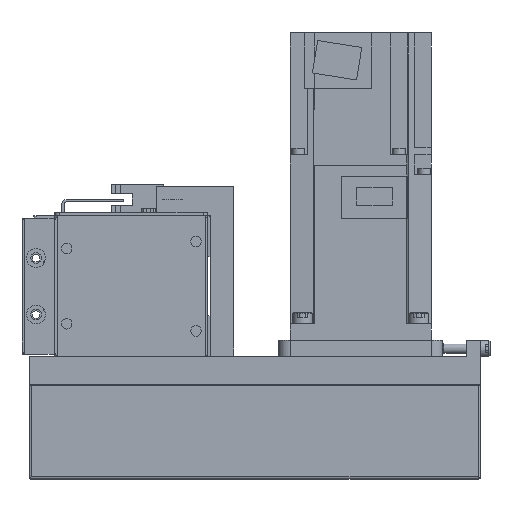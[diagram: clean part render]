
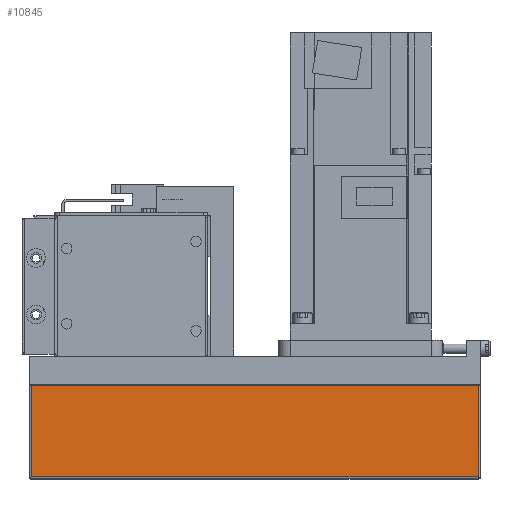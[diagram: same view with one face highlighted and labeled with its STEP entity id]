
A CAD part, left-side view. The second image highlights one B-rep face of the part: STEP entity #10845.
In plain terms, the highlighted planar face has unit normal (-1, 0, 0) as drawn and (1, 0, 0) by its records, which use the part's own axes.
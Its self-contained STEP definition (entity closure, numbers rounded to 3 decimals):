
#2518=ORIENTED_EDGE('',*,*,#4587,.T.);
#2519=ORIENTED_EDGE('',*,*,#4588,.T.);
#2520=ORIENTED_EDGE('',*,*,#4589,.F.);
#2521=ORIENTED_EDGE('',*,*,#4590,.F.);
#4587=EDGE_CURVE('',#5810,#5811,#6850,.T.);
#4588=EDGE_CURVE('',#5811,#5812,#6851,.T.);
#4589=EDGE_CURVE('',#5813,#5812,#6852,.T.);
#4590=EDGE_CURVE('',#5810,#5813,#6853,.T.);
#5810=VERTEX_POINT('',#17399);
#5811=VERTEX_POINT('',#17400);
#5812=VERTEX_POINT('',#17402);
#5813=VERTEX_POINT('',#17404);
#6850=LINE('',#17398,#7898);
#6851=LINE('',#17401,#7899);
#6852=LINE('',#17403,#7900);
#6853=LINE('',#17405,#7901);
#7898=VECTOR('',#14216,1000.);
#7899=VECTOR('',#14217,1000.);
#7900=VECTOR('',#14218,1000.);
#7901=VECTOR('',#14219,1000.);
#8893=EDGE_LOOP('',(#2518,#2519,#2520,#2521));
#9767=FACE_BOUND('',#8893,.T.);
#10315=PLANE('',#11830);
#10845=ADVANCED_FACE('',(#9767),#10315,.T.);
#11830=AXIS2_PLACEMENT_3D('',#17397,#14214,#14215);
#14214=DIRECTION('',(1.,0.,0.));
#14215=DIRECTION('',(0.,0.,-1.));
#14216=DIRECTION('',(0.,0.,1.));
#14217=DIRECTION('',(0.,-1.,0.));
#14218=DIRECTION('',(0.,0.,1.));
#14219=DIRECTION('',(0.,-1.,0.));
#17397=CARTESIAN_POINT('',(40.,-41.,-52.));
#17398=CARTESIAN_POINT('',(40.,150.,-64.));
#17399=CARTESIAN_POINT('',(40.,150.,-51.));
#17400=CARTESIAN_POINT('',(40.,150.,-12.01));
#17401=CARTESIAN_POINT('',(40.,-41.,-12.01));
#17402=CARTESIAN_POINT('',(40.,-40.,-12.01));
#17403=CARTESIAN_POINT('',(40.,-40.,-64.));
#17404=CARTESIAN_POINT('',(40.,-40.,-51.));
#17405=CARTESIAN_POINT('',(40.,200.,-51.));
